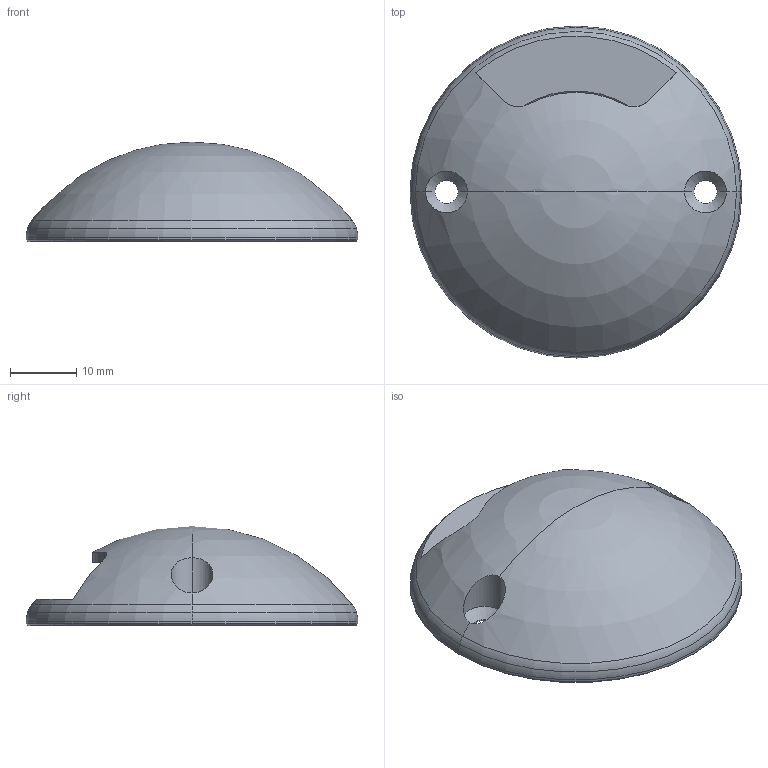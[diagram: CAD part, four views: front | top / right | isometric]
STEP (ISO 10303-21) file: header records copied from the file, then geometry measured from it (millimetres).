
FILE_DESCRIPTION((''),'2;1');
FILE_NAME('30224-81100_01_GHIERA_SW0001','2025-06-27T13:18:07',('Piccioli'),(''),'CREO PARAMETRIC BY PTC INC, 2025010','CREO PARAMETRIC BY PTC INC, 2025010','');
FILE_SCHEMA(('CONFIG_CONTROL_DESIGN'));
Length unit declared in the file: millimetre
Products named in the file (1): 30224-81100_01_GHIERA_SW0001
Bounding box: 50 x 50 x 15 mm (x, y, z)
Surface area: 6071.7 mm2 (no closed solid volume)
Topology: 0 solids, 1 shells, 70 faces, 169 edges, 95 vertices
Faces by surface type: cylinder 28, torus 17, cone 16, plane 7, sphere 2
Entity records: 2179 total; most frequent: CARTESIAN_POINT 505, DIRECTION 382, ORIENTED_EDGE 318, AXIS2_PLACEMENT_3D 167, EDGE_CURVE 159, CIRCLE 97, VERTEX_POINT 95, EDGE_LOOP 80
